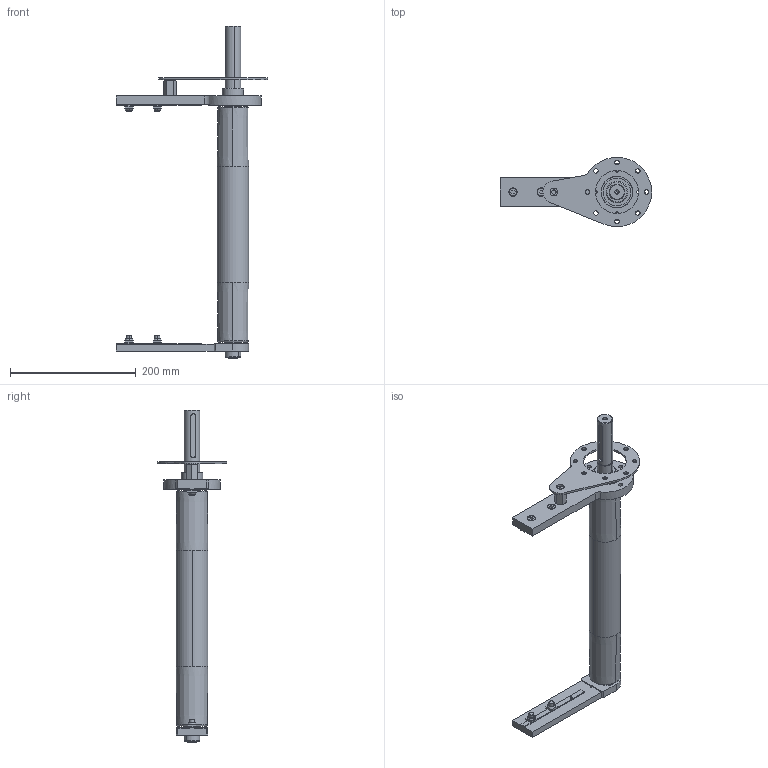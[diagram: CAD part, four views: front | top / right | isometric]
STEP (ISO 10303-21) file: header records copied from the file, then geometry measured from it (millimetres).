
FILE_DESCRIPTION (( 'STEP AP203' ), '1' );
FILE_NAME ('084.050.KD.49.350.STEP', '2018-06-13T08:18:47', ( 'Localadmin' ), ( 'Microsoft' ), 'SwSTEP 2.0', 'SolidWorks 2016', '' );
FILE_SCHEMA (( 'CONFIG_CONTROL_DESIGN' ));
Length unit declared in the file: millimetre
Products named in the file (13): 084.802.027; 084.808.004; 084.807.002_084.807.002; 084.807.001_084.807.001; 084.802.017_084.802.017; 084.802.034_084.802.034; 084.811.004; 084.811.003; 084.815.128_Default<A macchina>; 084.050.KD.49.350; 084.810.001; 084.301.000 VITI ALUSIC_084.301.003; 084.302.000 DADI ALUSIC 13x13_084.302.004
Assembly tree (19 placements, depth 2):
  084.050.KD.49.350
    084.807.002_084.807.002
    084.802.017_084.802.017
    084.811.004
    084.815.128_Default<A macchina>
    084.810.001  x2
    084.301.000 VITI ALUSIC_084.301.003  x4
    084.302.000 DADI ALUSIC 13x13_084.302.004  x4
    084.802.027
    084.808.004
    084.807.001_084.807.001
    084.802.034_084.802.034
    084.811.003
Bounding box: 240 x 110 x 527 mm (x, y, z)
Volume: 652846.8 mm3; surface area: 326691 mm2
Topology: 24 solids, 25 shells, 607 faces, 1526 edges, 990 vertices
Faces by surface type: plane 251, cylinder 228, torus 68, cone 51, sphere 9
Entity records: 16095 total; most frequent: CARTESIAN_POINT 2897, DIRECTION 2650, ORIENTED_EDGE 2300, EDGE_CURVE 1150, AXIS2_PLACEMENT_3D 1068, VERTEX_POINT 747, CIRCLE 589, EDGE_LOOP 555
